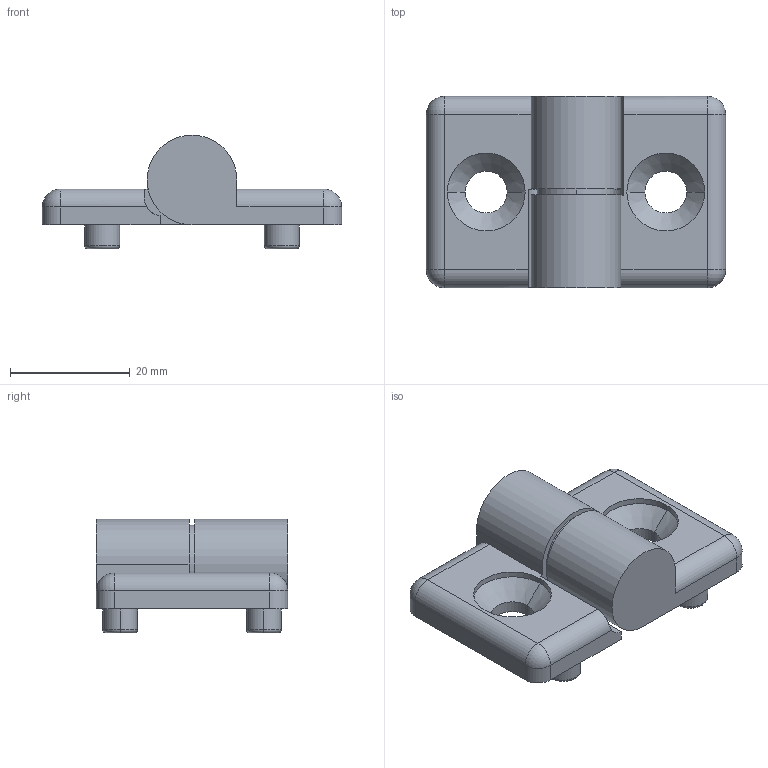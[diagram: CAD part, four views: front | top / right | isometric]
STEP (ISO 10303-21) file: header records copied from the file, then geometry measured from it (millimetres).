
FILE_DESCRIPTION (( 'STEP AP214' ), '1' );
FILE_NAME ('J3PR.step', '2017-05-24T07:46:15', ( 'admin' ), ( '' ), 'SwSTEP 2.0', 'SolidWorks 2014', '' );
FILE_SCHEMA (( 'AUTOMOTIVE_DESIGN' ));
Length unit declared in the file: millimetre
Products named in the file (4): J3PR-3; J3PR-2; J3PR-1; J3PR
Assembly tree (4 placements, depth 2):
  J3PR
    J3PR-1  x2
    J3PR-2
    J3PR-3
Bounding box: 50 x 32 x 19 mm (x, y, z)
Volume: 11501.2 mm3; surface area: 7256.5 mm2
Topology: 4 solids, 4 shells, 100 faces, 218 edges, 132 vertices
Faces by surface type: cylinder 48, plane 32, torus 8, cone 8, sphere 4
Entity records: 1709 total; most frequent: DIRECTION 313, CARTESIAN_POINT 263, ORIENTED_EDGE 240, AXIS2_PLACEMENT_3D 130, EDGE_CURVE 120, VERTEX_POINT 74, EDGE_LOOP 66, CIRCLE 66
